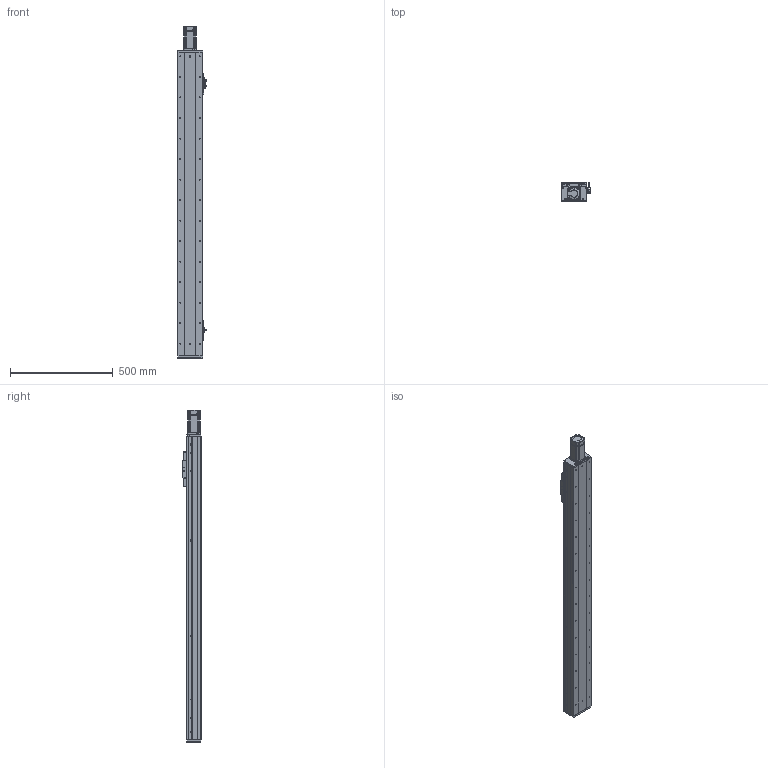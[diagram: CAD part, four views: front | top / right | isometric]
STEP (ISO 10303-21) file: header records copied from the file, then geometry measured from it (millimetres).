
FILE_DESCRIPTION (( 'STEP AP203' ), '1' );
FILE_NAME ('RY120F-L2010-1000-MK.SLDASM_1200.step', '2021-03-02T06:06:10', ( '盈信电脑' ), ( '东莞市道滘镇水果街19号' ), 'SwSTEP 2.0', 'SolidWorks 2012', '' );
FILE_SCHEMA (( 'CONFIG_CONTROL_DESIGN' ));
Length unit declared in the file: millimetre
Products named in the file (23): RY120F-L2010-1000-MK.SLDASM_1200; RY120F-蚥薯蝶幗謫郪磁; RY120F-钢带滚轮轴(优力胶); MF95ZZ; 蚥薯蝶幗謫; 粣杶; FY120F詩湍揤踡輸; RY80俋离覜茼え; 672嫖萇羲壽假蚾釱; 滅袉蝶18-17; 滅袉蝶18-24; RY120F不锈钢防尘盖(优力胶）; 覜茼ん672; RY120F綴裔啣(臏璃ㄘ; 15; RY120F眻蟀ヶ裔啣; 侂狟400W侜督萇儂; 絳寢賑輸EGH15; RY120F-铝滑块上座（优力胶）; RY120F滅鳥詩湍-1000-MK_1200; RY120F-臏賑輸 20蹟譫; RY120F-1000-倰第裔啣_1200; RY120F-1000-倰第菁釱_1200
Assembly tree (34 placements, depth 3):
  RY120F-L2010-1000-MK.SLDASM_1200
    RY120F-1000-倰第菁釱_1200
    RY120F-1000-倰第裔啣_1200  x2
    RY120F滅鳥詩湍-1000-MK_1200
    RY120F-臏賑輸 20蹟譫
    絳寢賑輸EGH15  x2
    RY120F-铝滑块上座（优力胶）
    侂狟400W侜督萇儂
      15
    RY120F眻蟀ヶ裔啣
    RY120F不锈钢防尘盖(优力胶）
    滅袉蝶18-24
    RY120F綴裔啣(臏璃ㄘ
    覜茼ん672  x3
    672嫖萇羲壽假蚾釱  x2
    RY80俋离覜茼え
    FY120F詩湍揤踡輸  x2
    滅袉蝶18-17  x2
    RY120F-蚥薯蝶幗謫郪磁
      RY120F-钢带滚轮轴(优力胶)
      蚥薯蝶幗謫  x2
      MF95ZZ  x4
      粣杶  x2
Bounding box: 140.35 x 89 x 1618.5 mm (x, y, z)
Volume: 4733953.1 mm3; surface area: 1727390.9 mm2
Topology: 32 solids, 32 shells, 2317 faces, 6157 edges, 3937 vertices
Faces by surface type: cylinder 1084, plane 988, cone 227, bspline 18
Entity records: 61924 total; most frequent: CARTESIAN_POINT 11156, DIRECTION 10439, ORIENTED_EDGE 9682, EDGE_CURVE 4841, AXIS2_PLACEMENT_3D 3804, VERTEX_POINT 3169, LINE 2831, VECTOR 2831
